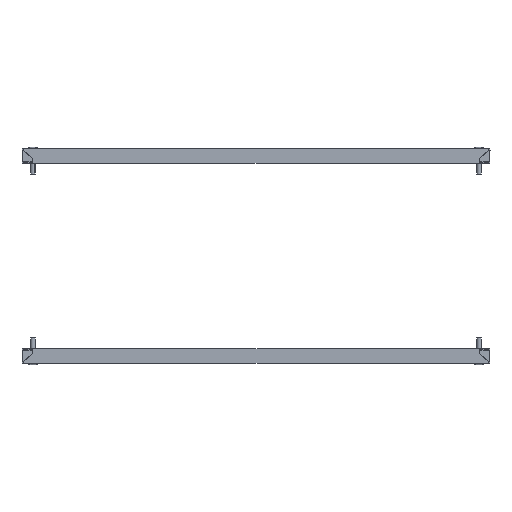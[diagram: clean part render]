
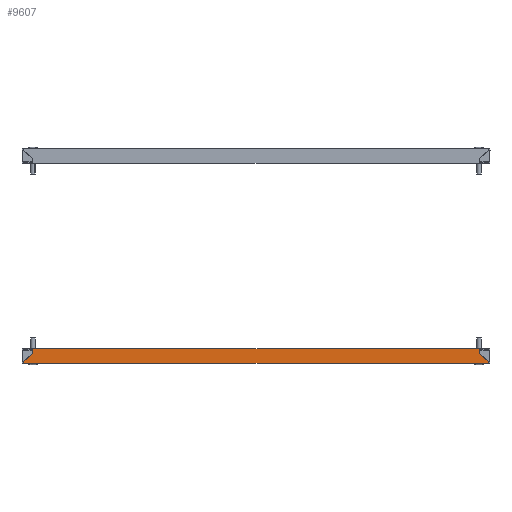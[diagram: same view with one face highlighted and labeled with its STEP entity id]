
A CAD part, front view. The second image highlights one B-rep face of the part: STEP entity #9607.
In plain terms, the highlighted planar face has unit normal (0, -1, 0).
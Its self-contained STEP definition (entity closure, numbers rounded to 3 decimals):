
#57 = VERTEX_POINT ( 'NONE', #5565 ) ;
#100 = CARTESIAN_POINT ( 'NONE',  ( 0., -50., 17.5 ) ) ;
#193 = LINE ( 'NONE', #9457, #3344 ) ;
#368 = DIRECTION ( 'NONE',  ( 0.707, 0., -0.707 ) ) ;
#484 = CARTESIAN_POINT ( 'NONE',  ( 297.046, -50., 0.6 ) ) ;
#486 = CARTESIAN_POINT ( 'NONE',  ( -297.181, -50., -0.799 ) ) ;
#1124 = EDGE_CURVE ( 'NONE', #7778, #2244, #193, .T. ) ;
#1309 = EDGE_CURVE ( 'NONE', #7778, #4992, #4163, .T. ) ;
#1464 = ORIENTED_EDGE ( 'NONE', *, *, #1309, .T. ) ;
#1520 = CARTESIAN_POINT ( 'NONE',  ( 286., -50., 17.5 ) ) ;
#1665 = CARTESIAN_POINT ( 'NONE',  ( -297.223, -50., -1.5 ) ) ;
#1728 = B_SPLINE_CURVE_WITH_KNOTS ( 'NONE', 3,
 ( #6247, #4482, #4572, #3027, #6943, #5486 ),
 .UNSPECIFIED., .F., .F.,
 ( 4, 2, 4 ),
 ( 0.005, 0.006, 0.008 ),
 .UNSPECIFIED. ) ;
#1773 = LINE ( 'NONE', #9543, #1972 ) ;
#1972 = VECTOR ( 'NONE', #368, 1000. ) ;
#2013 = AXIS2_PLACEMENT_3D ( 'NONE', #6422, #2593, #5710 ) ;
#2064 = VECTOR ( 'NONE', #7019, 1000. ) ;
#2127 = VECTOR ( 'NONE', #5585, 1000. ) ;
#2139 = DIRECTION ( 'NONE',  ( 1., 0., 0. ) ) ;
#2171 = LINE ( 'NONE', #100, #2127 ) ;
#2244 = VERTEX_POINT ( 'NONE', #2245 ) ;
#2245 = CARTESIAN_POINT ( 'NONE',  ( -286., -50., 11.646 ) ) ;
#2537 = EDGE_CURVE ( 'NONE', #57, #2244, #8430, .T. ) ;
#2545 = EDGE_CURVE ( 'NONE', #5909, #9696, #8485, .T. ) ;
#2593 = DIRECTION ( 'NONE',  ( 0., 1., 0. ) ) ;
#2814 = EDGE_CURVE ( 'NONE', #4459, #7757, #1728, .T. ) ;
#3027 = CARTESIAN_POINT ( 'NONE',  ( 297.181, -50., -0.799 ) ) ;
#3044 = ORIENTED_EDGE ( 'NONE', *, *, #2545, .T. ) ;
#3344 = VECTOR ( 'NONE', #7981, 1000. ) ;
#3405 = FACE_OUTER_BOUND ( 'NONE', #4133, .T. ) ;
#3665 = CARTESIAN_POINT ( 'NONE',  ( -297.046, -50., 0.6 ) ) ;
#3972 = CARTESIAN_POINT ( 'NONE',  ( 286., -50., 11.646 ) ) ;
#4133 = EDGE_LOOP ( 'NONE', ( #8396, #3044, #7508, #9786, #8304, #1464, #6860, #4623 ) ) ;
#4163 = B_SPLINE_CURVE_WITH_KNOTS ( 'NONE', 3,
 ( #6631, #8996, #5166, #486, #7471, #6584 ),
 .UNSPECIFIED., .F., .F.,
 ( 4, 2, 4 ),
 ( 0.005, 0.006, 0.008 ),
 .UNSPECIFIED. ) ;
#4459 = VERTEX_POINT ( 'NONE', #484 ) ;
#4462 = LINE ( 'NONE', #7383, #6819 ) ;
#4482 = CARTESIAN_POINT ( 'NONE',  ( 297.084, -50., 0.251 ) ) ;
#4572 = CARTESIAN_POINT ( 'NONE',  ( 297.121, -50., -0.099 ) ) ;
#4598 = CARTESIAN_POINT ( 'NONE',  ( -286., -50., 11.646 ) ) ;
#4623 = ORIENTED_EDGE ( 'NONE', *, *, #2814, .F. ) ;
#4992 = VERTEX_POINT ( 'NONE', #1665 ) ;
#5114 = EDGE_CURVE ( 'NONE', #4992, #7757, #4462, .T. ) ;
#5166 = CARTESIAN_POINT ( 'NONE',  ( -297.121, -50., -0.099 ) ) ;
#5486 = CARTESIAN_POINT ( 'NONE',  ( 297.223, -50., -1.5 ) ) ;
#5565 = CARTESIAN_POINT ( 'NONE',  ( -286., -50., 17.5 ) ) ;
#5585 = DIRECTION ( 'NONE',  ( -1., 0., 0. ) ) ;
#5710 = DIRECTION ( 'NONE',  ( 0., 0., 1. ) ) ;
#5868 = EDGE_CURVE ( 'NONE', #9696, #57, #2171, .T. ) ;
#5909 = VERTEX_POINT ( 'NONE', #3972 ) ;
#6247 = CARTESIAN_POINT ( 'NONE',  ( 297.046, -50., 0.6 ) ) ;
#6309 = EDGE_CURVE ( 'NONE', #5909, #4459, #1773, .T. ) ;
#6422 = CARTESIAN_POINT ( 'NONE',  ( 0., -50., 0. ) ) ;
#6523 = PLANE ( 'NONE',  #2013 ) ;
#6584 = CARTESIAN_POINT ( 'NONE',  ( -297.223, -50., -1.5 ) ) ;
#6631 = CARTESIAN_POINT ( 'NONE',  ( -297.046, -50., 0.6 ) ) ;
#6819 = VECTOR ( 'NONE', #2139, 1000. ) ;
#6860 = ORIENTED_EDGE ( 'NONE', *, *, #5114, .T. ) ;
#6886 = CARTESIAN_POINT ( 'NONE',  ( 297.223, -50., -1.5 ) ) ;
#6943 = CARTESIAN_POINT ( 'NONE',  ( 297.204, -50., -1.149 ) ) ;
#7019 = DIRECTION ( 'NONE',  ( 0., 0., -1. ) ) ;
#7383 = CARTESIAN_POINT ( 'NONE',  ( 0., -50., -1.5 ) ) ;
#7471 = CARTESIAN_POINT ( 'NONE',  ( -297.204, -50., -1.149 ) ) ;
#7508 = ORIENTED_EDGE ( 'NONE', *, *, #5868, .T. ) ;
#7757 = VERTEX_POINT ( 'NONE', #6886 ) ;
#7772 = DIRECTION ( 'NONE',  ( 0., 0., 1. ) ) ;
#7778 = VERTEX_POINT ( 'NONE', #3665 ) ;
#7981 = DIRECTION ( 'NONE',  ( 0.707, 0., 0.707 ) ) ;
#8304 = ORIENTED_EDGE ( 'NONE', *, *, #1124, .F. ) ;
#8396 = ORIENTED_EDGE ( 'NONE', *, *, #6309, .F. ) ;
#8430 = LINE ( 'NONE', #4598, #2064 ) ;
#8485 = LINE ( 'NONE', #9293, #9484 ) ;
#8996 = CARTESIAN_POINT ( 'NONE',  ( -297.084, -50., 0.251 ) ) ;
#9293 = CARTESIAN_POINT ( 'NONE',  ( 286., -50., 11.646 ) ) ;
#9457 = CARTESIAN_POINT ( 'NONE',  ( -297.046, -50., 0.6 ) ) ;
#9484 = VECTOR ( 'NONE', #7772, 1000. ) ;
#9543 = CARTESIAN_POINT ( 'NONE',  ( -123.212, -50., 420.858 ) ) ;
#9607 = ADVANCED_FACE ( 'NONE', ( #3405 ), #6523, .F. ) ;
#9696 = VERTEX_POINT ( 'NONE', #1520 ) ;
#9786 = ORIENTED_EDGE ( 'NONE', *, *, #2537, .T. ) ;
